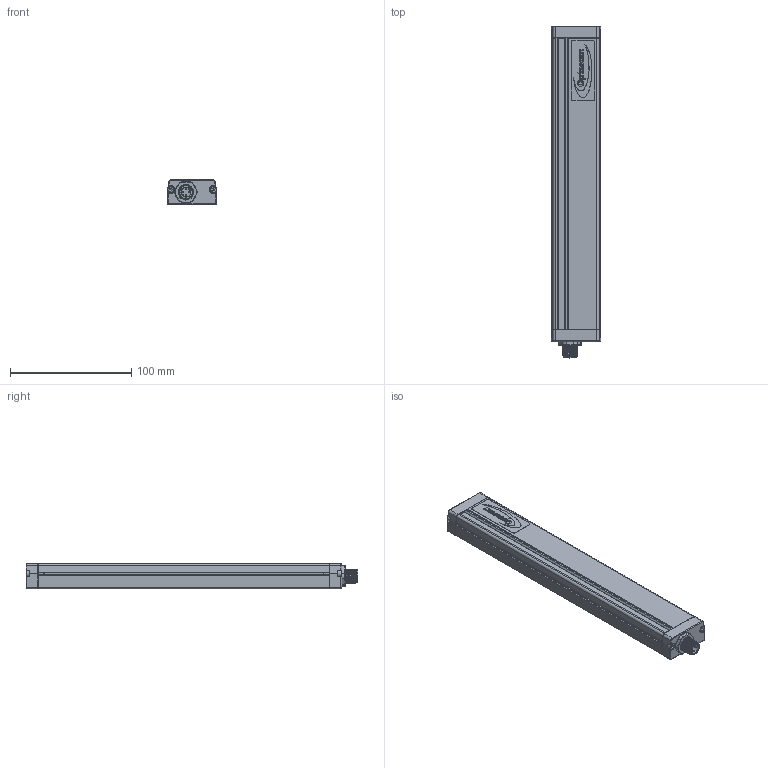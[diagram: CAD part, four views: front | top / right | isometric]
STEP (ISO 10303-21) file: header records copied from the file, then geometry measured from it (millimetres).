
FILE_DESCRIPTION(/* description */ (''),/* implementation_level */ '2;1');
FILE_NAME(/* name */ 'C:\Users\andre\SynologyDrive\Optoscan\Libreria Componenti\00 - Barriere\Barriera sorgente\Argo_240_TX.stp',/* time_stamp */ '2021-04-21T17:55:00+02:00',/* author */ ('andre'),/* organization */ (''),/* preprocessor_version */ 'ST-DEVELOPER v18',/* originating_system */ 'Autodesk Inventor 2020',/* authorisation */ '');
FILE_SCHEMA (('AUTOMOTIVE_DESIGN { 1 0 10303 214 3 1 1 }'));
Length unit declared in the file: millimetre
Products named in the file (1): Argo_240_TX
Bounding box: 40.5 x 273.3 x 20.75 mm (x, y, z)
Volume: 58241.2 mm3; surface area: 71283.1 mm2
Topology: 1 solids, 1 shells, 696 faces, 1911 edges, 1225 vertices
Faces by surface type: plane 321, cylinder 195, bspline 94, torus 72, cone 8, sphere 6
Full cylindrical faces by diameter (mm): 1 x4, 2.459 x4, 2.5 x4, 3 x4, 3.5 x4, 5.5 x4, 8 x1, 10.5 x2, 11.75 x9, 15.7 x1, 17.5 x1
Entity records: 30770 total; most frequent: CARTESIAN_POINT 12670, ORIENTED_EDGE 3806, DIRECTION 3415, EDGE_CURVE 1903, VERTEX_POINT 1225, AXIS2_PLACEMENT_3D 1193, LINE 1029, VECTOR 1029
